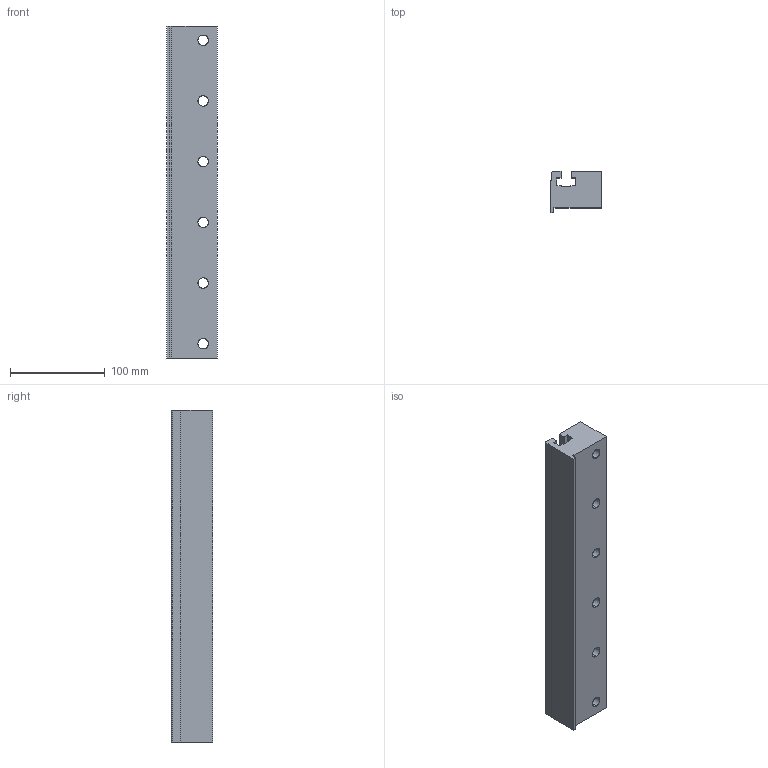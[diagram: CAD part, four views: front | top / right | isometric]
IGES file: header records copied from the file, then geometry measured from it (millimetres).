
Start section: SolidWorks IGES file using analytic representation for surfaces
Global section: file name: R:\Drawings\Files saved as other types\Solid_Models\MODELS FOR PUBLIC\33326 .5 GANG RISER SHORT.IGS; native system: SolidWorks 2012; preprocessor: SolidWorks 2012; author: RTooley; date: 140129.100118; units: millimetre
Bounding box: 53.5 x 43.3 x 350 mm (x, y, z)
Surface area: 97356.7 mm2 (no closed solid volume)
Topology: 0 solids, 0 shells, 56 faces, 1008 edges, 1008 vertices
Faces by surface type: bspline 32, revolution 24
